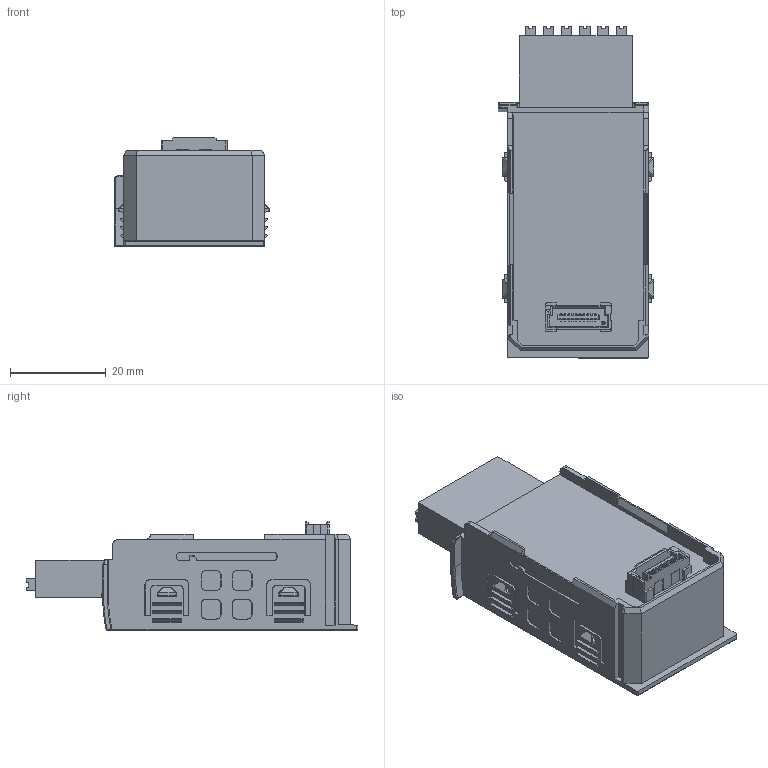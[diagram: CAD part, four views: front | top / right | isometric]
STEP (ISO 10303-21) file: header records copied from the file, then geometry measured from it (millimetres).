
FILE_DESCRIPTION((''),'2;1');
FILE_NAME('01480027-WXSTEP_B00','2022-05-24T',('10002586'),(''),'CREO PARAMETRIC BY PTC INC, 2015290','CREO PARAMETRIC BY PTC INC, 2015290','');
FILE_SCHEMA(('CONFIG_CONTROL_DESIGN'));
Length unit declared in the file: millimetre
Products named in the file (1): 01480027-WXSTEP_B00
Bounding box: 32.6 x 69.5 x 22.9 mm (x, y, z)
Volume: 28888.9 mm3; surface area: 8668.2 mm2
Topology: 1 solids, 1 shells, 1254 faces, 3417 edges, 2213 vertices
Faces by surface type: plane 1077, cone 80, cylinder 60, extrusion 16, torus 10, bspline 8, sphere 3
Entity records: 49551 total; most frequent: CARTESIAN_POINT 8542, ORIENTED_EDGE 6828, DIRECTION 6080, EDGE_CURVE 3414, VECTOR 3090, LINE 3074, VERTEX_POINT 2213, AXIS2_PLACEMENT_3D 1495
